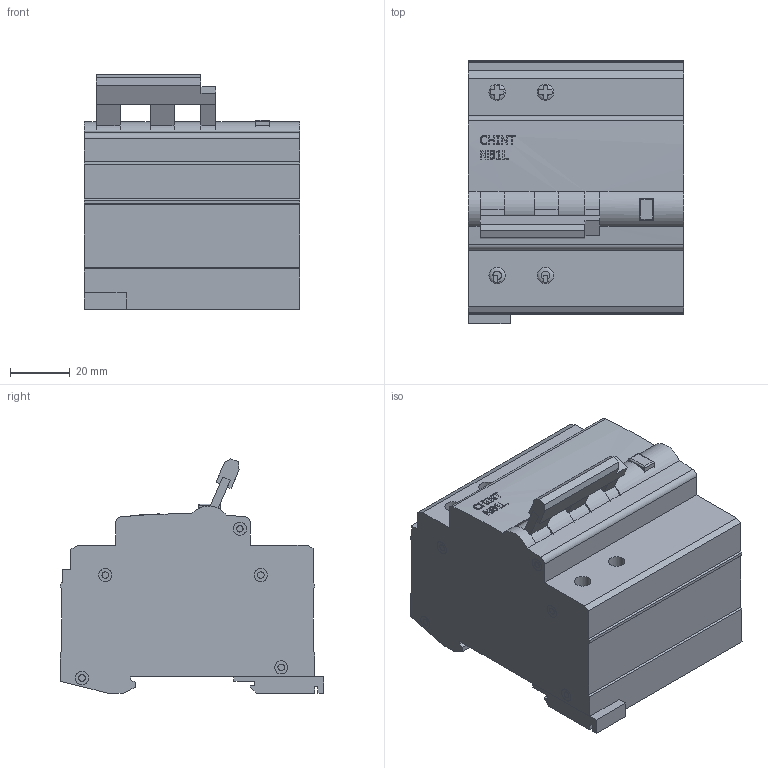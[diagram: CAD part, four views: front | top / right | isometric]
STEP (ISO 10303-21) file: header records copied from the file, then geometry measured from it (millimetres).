
FILE_DESCRIPTION(/* description */ (''),/* implementation_level */ '2;1');
FILE_NAME(/* name */ 'D:\CHINT\NB1L\Диф. автомат NB1L-63 2P C50 30mA тип AC 6kA (R) (CHINT).stp',/* time_stamp */ '2017-09-24T19:18:15+04:00',/* author */ ('RSagdiev'),/* organization */ (''),/* preprocessor_version */ 'ST-DEVELOPER v16.5',/* originating_system */ 'Autodesk Inventor 2017',/* authorisation */ '');
FILE_SCHEMA (('AUTOMOTIVE_DESIGN { 1 0 10303 214 3 1 1 }'));
Length unit declared in the file: millimetre
Products named in the file (1): Диф. автомат NB1L-63 2P
 C50 30mA тип AC 6kA (R) (CHINT)
Bounding box: 72 x 88 x 78.44 mm (x, y, z)
Volume: 316516.7 mm3; surface area: 37630.7 mm2
Topology: 12 solids, 12 shells, 347 faces, 842 edges, 557 vertices
Faces by surface type: plane 255, cylinder 57, bspline 35
Full cylindrical faces by diameter (mm): 2.1 x3, 2.2 x11, 4.4 x10, 5.5 x4
Entity records: 10725 total; most frequent: CARTESIAN_POINT 2700, ORIENTED_EDGE 1628, DIRECTION 1559, EDGE_CURVE 814, VERTEX_POINT 557, AXIS2_PLACEMENT_3D 520, LINE 519, VECTOR 519
